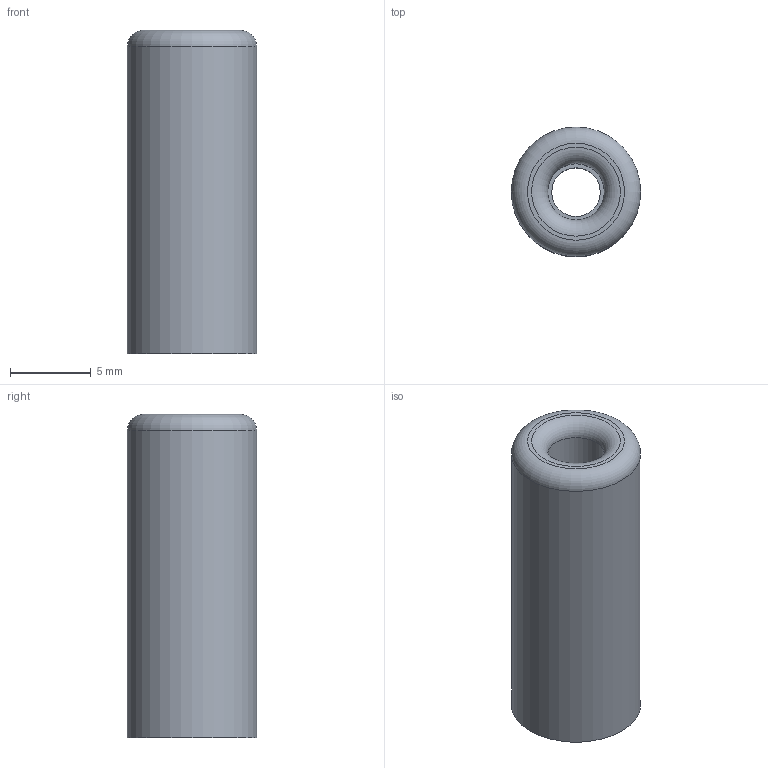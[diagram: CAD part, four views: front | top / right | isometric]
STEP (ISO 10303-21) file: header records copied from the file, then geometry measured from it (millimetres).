
FILE_DESCRIPTION(('STEP AP242'), '1');
FILE_NAME('êðåï12', '', ('UNSPECIFIED'), ('UNSPECIFIED'), 'C3D Converter', 'C3D Toolkit', '');
FILE_SCHEMA(('AP242_MANAGED_MODEL_BASED_3D_ENGINEERING_MIM_LF { 1 0 10303 442 1 1 4 }'));
Length unit declared in the file: millimetre
Bounding box: 8 x 8 x 20 mm (x, y, z)
Volume: 815.3 mm3; surface area: 787.2 mm2
Topology: 1 solids, 1 shells, 8 faces, 13 edges, 8 vertices
Faces by surface type: cylinder 3, plane 3, torus 2
Full cylindrical faces by diameter (mm): 3 x1, 3.5 x1, 8 x1
Entity records: 272 total; most frequent: DIRECTION 34, CARTESIAN_POINT 25, AXIS2_PLACEMENT_3D 17, EDGE_LOOP 16, ORIENTED_EDGE 16, FACE_OUTER_BOUND 10, COLOUR_RGB 9, FILL_AREA_STYLE_COLOUR 9
